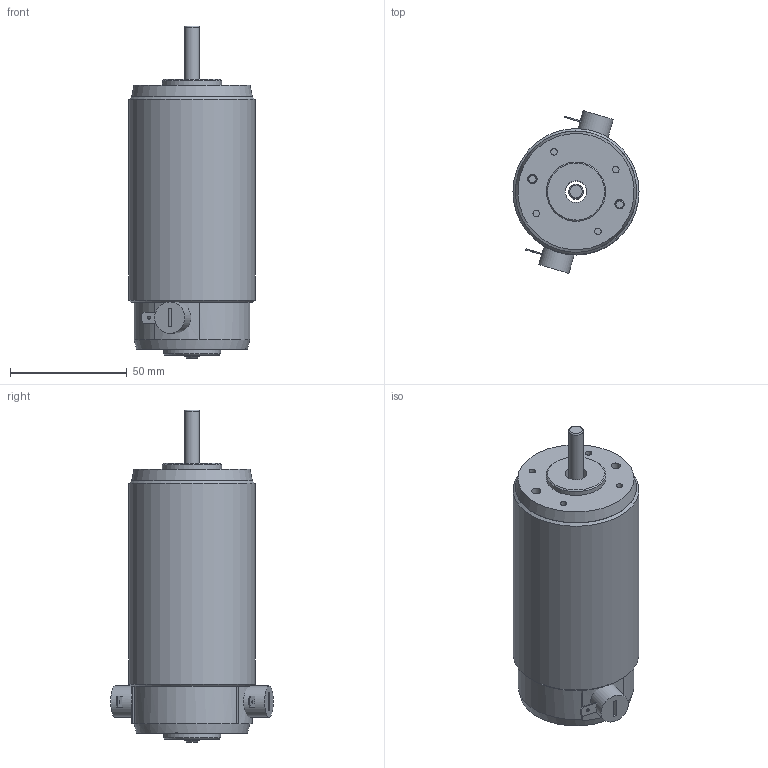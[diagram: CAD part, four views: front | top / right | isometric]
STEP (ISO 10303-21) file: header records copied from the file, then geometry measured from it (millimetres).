
FILE_DESCRIPTION(/* description */ (''),/* implementation_level */ '2;1');
FILE_NAME(/* name */ 'Z:\새 폴더\Compact Type RM5_3D\RM55_TYPE.stp',/* time_stamp */ '2022-04-05T16:51:14+09:00',/* author */ ('umbro'),/* organization */ (''),/* preprocessor_version */ 'ST-DEVELOPER v17',/* originating_system */ 'Autodesk Inventor 2019',/* authorisation */ '');
FILE_SCHEMA (('AUTOMOTIVE_DESIGN { 1 0 10303 214 3 1 1 }'));
Length unit declared in the file: millimetre
Products named in the file (11): RM55_TYPE; RM55_SHAFT; RM5_FRONT; RM5_PIPE_pi54XL88; RM5_TYPE_REAR_HOUSING; RM5_REAR; BRUSH_HOLDER_ASSY; BRUSH_HOLDER_ASSY_MIR; RM5_BRUSH_COVER_RED; RM5_BRUSH_COVER_BRACK; AS 1427 Z - 미터 M4 x 50
Assembly tree (11 placements, depth 3):
  RM55_TYPE
    RM55_SHAFT
    RM5_FRONT
    RM5_PIPE_pi54XL88
    RM5_TYPE_REAR_HOUSING
      RM5_REAR
      BRUSH_HOLDER_ASSY
      BRUSH_HOLDER_ASSY_MIR
      RM5_BRUSH_COVER_RED
      RM5_BRUSH_COVER_BRACK
    AS 1427 Z - 미터 M4 x 50  x2
Bounding box: 54 x 69.62 x 142.2 mm (x, y, z)
Volume: 92183.5 mm3; surface area: 51046.6 mm2
Topology: 10 solids, 10 shells, 189 faces, 472 edges, 313 vertices
Faces by surface type: plane 96, cylinder 43, cone 41, torus 9
Full cylindrical faces by diameter (mm): 1.3 x2, 2.8 x7, 3.571 x2, 4 x4, 4.2 x2, 5.76 x3, 6.334 x1, 7 x2, 9.3 x2, 11 x4, 13.4 x2, 24.5 x1, 25.4 x1, 46 x2, 49.6 x1, 54 x1
Entity records: 5241 total; most frequent: CARTESIAN_POINT 1197, DIRECTION 793, ORIENTED_EDGE 714, EDGE_CURVE 357, AXIS2_PLACEMENT_3D 314, VERTEX_POINT 238, EDGE_LOOP 189, LINE 165
